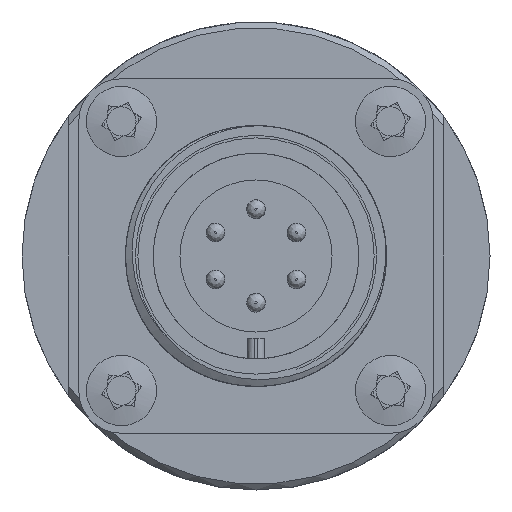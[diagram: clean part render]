
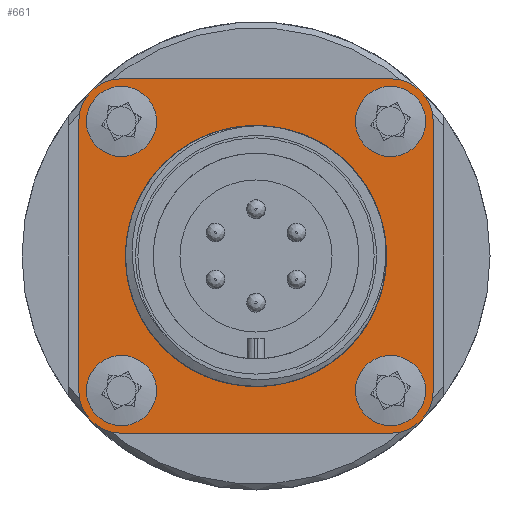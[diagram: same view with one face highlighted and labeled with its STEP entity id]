
A CAD part, front view. The second image highlights one B-rep face of the part: STEP entity #661.
In plain terms, the highlighted planar face has unit normal (0, -1, 0) as drawn and (-1, 0, 0) by its records, which use the part's own axes.
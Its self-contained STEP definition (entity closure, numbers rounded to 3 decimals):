
#661 = ADVANCED_FACE( '', ( #1317, #1318, #1319, #1320, #1321, #1322 ), #1323, .F. );
#1317 = FACE_BOUND( '', #5621, .T. );
#1318 = FACE_BOUND( '', #5622, .T. );
#1319 = FACE_OUTER_BOUND( '', #5623, .T. );
#1320 = FACE_BOUND( '', #5624, .T. );
#1321 = FACE_BOUND( '', #5625, .T. );
#1322 = FACE_BOUND( '', #5626, .T. );
#1323 = PLANE( '', #5627 );
#5621 = EDGE_LOOP( '', ( #7750 ) );
#5622 = EDGE_LOOP( '', ( #7751 ) );
#5623 = EDGE_LOOP( '', ( #7752, #7753, #7754, #7755, #7756, #7757, #7758, #7759 ) );
#5624 = EDGE_LOOP( '', ( #7760 ) );
#5625 = EDGE_LOOP( '', ( #7761 ) );
#5626 = EDGE_LOOP( '', ( #7762 ) );
#5627 = AXIS2_PLACEMENT_3D( '', #7763, #7764, #7765 );
#7750 = ORIENTED_EDGE( '', *, *, #8535, .T. );
#7751 = ORIENTED_EDGE( '', *, *, #8529, .T. );
#7752 = ORIENTED_EDGE( '', *, *, #8103, .F. );
#7753 = ORIENTED_EDGE( '', *, *, #8334, .F. );
#7754 = ORIENTED_EDGE( '', *, *, #8190, .F. );
#7755 = ORIENTED_EDGE( '', *, *, #8341, .F. );
#7756 = ORIENTED_EDGE( '', *, *, #8485, .F. );
#7757 = ORIENTED_EDGE( '', *, *, #8337, .F. );
#7758 = ORIENTED_EDGE( '', *, *, #8449, .F. );
#7759 = ORIENTED_EDGE( '', *, *, #8154, .F. );
#7760 = ORIENTED_EDGE( '', *, *, #8288, .T. );
#7761 = ORIENTED_EDGE( '', *, *, #8501, .T. );
#7762 = ORIENTED_EDGE( '', *, *, #8274, .T. );
#7763 = CARTESIAN_POINT( '', ( -2.4, -11.5, 11.5 ) );
#7764 = DIRECTION( '', ( 1., 0., 0. ) );
#7765 = DIRECTION( '', ( 0., 1., 0. ) );
#8103 = EDGE_CURVE( '', #8629, #8631, #8632, .T. );
#8154 = EDGE_CURVE( '', #8631, #8720, #8721, .T. );
#8190 = EDGE_CURVE( '', #8781, #8783, #8784, .T. );
#8274 = EDGE_CURVE( '', #8922, #8922, #8923, .T. );
#8288 = EDGE_CURVE( '', #8943, #8943, #8944, .T. );
#8334 = EDGE_CURVE( '', #8783, #8629, #9015, .T. );
#8337 = EDGE_CURVE( '', #9017, #9019, #9020, .T. );
#8341 = EDGE_CURVE( '', #9023, #8781, #9025, .T. );
#8449 = EDGE_CURVE( '', #8720, #9017, #9187, .T. );
#8485 = EDGE_CURVE( '', #9019, #9023, #9234, .T. );
#8501 = EDGE_CURVE( '', #9251, #9251, #9252, .T. );
#8529 = EDGE_CURVE( '', #9284, #9284, #9285, .T. );
#8535 = EDGE_CURVE( '', #9292, #9292, #9293, .T. );
#8629 = VERTEX_POINT( '', #9392 );
#8631 = VERTEX_POINT( '', #9395 );
#8632 = CIRCLE( '', #9396, 3.65 );
#8720 = VERTEX_POINT( '', #10011 );
#8721 = LINE( '', #10012, #10013 );
#8781 = VERTEX_POINT( '', #10126 );
#8783 = VERTEX_POINT( '', #10129 );
#8784 = CIRCLE( '', #10130, 3.65 );
#8922 = VERTEX_POINT( '', #11244 );
#8923 = CIRCLE( '', #11245, 1.5 );
#8943 = VERTEX_POINT( '', #11272 );
#8944 = CIRCLE( '', #11273, 1.5 );
#9015 = LINE( '', #11406, #11407 );
#9017 = VERTEX_POINT( '', #11409 );
#9019 = VERTEX_POINT( '', #11412 );
#9020 = LINE( '', #11413, #11414 );
#9023 = VERTEX_POINT( '', #11418 );
#9025 = LINE( '', #11421, #11422 );
#9187 = CIRCLE( '', #12160, 3.65 );
#9234 = CIRCLE( '', #12373, 3.65 );
#9251 = VERTEX_POINT( '', #12392 );
#9252 = CIRCLE( '', #12393, 1.5 );
#9284 = VERTEX_POINT( '', #12780 );
#9285 = CIRCLE( '', #12781, 1.5 );
#9292 = VERTEX_POINT( '', #12788 );
#9293 = CIRCLE( '', #12789, 11.15 );
#9392 = CARTESIAN_POINT( '', ( -2.4, -11.5, 15.15 ) );
#9395 = CARTESIAN_POINT( '', ( -2.4, -15.15, 11.5 ) );
#9396 = AXIS2_PLACEMENT_3D( '', #13250, #13251, #13252 );
#10011 = CARTESIAN_POINT( '', ( -2.4, -15.15, -11.5 ) );
#10012 = CARTESIAN_POINT( '', ( -2.4, -15.15, 11.5 ) );
#10013 = VECTOR( '', #13314, 1000. );
#10126 = CARTESIAN_POINT( '', ( -2.4, 15.15, 11.5 ) );
#10129 = CARTESIAN_POINT( '', ( -2.4, 11.5, 15.15 ) );
#10130 = AXIS2_PLACEMENT_3D( '', #13362, #13363, #13364 );
#11244 = CARTESIAN_POINT( '', ( -2.4, -10., -11.5 ) );
#11245 = AXIS2_PLACEMENT_3D( '', #13480, #13481, #13482 );
#11272 = CARTESIAN_POINT( '', ( -2.4, 13., 11.5 ) );
#11273 = AXIS2_PLACEMENT_3D( '', #13496, #13497, #13498 );
#11406 = CARTESIAN_POINT( '', ( -2.4, -11.5, 15.15 ) );
#11407 = VECTOR( '', #13548, 1000. );
#11409 = CARTESIAN_POINT( '', ( -2.4, -11.5, -15.15 ) );
#11412 = CARTESIAN_POINT( '', ( -2.4, 11.5, -15.15 ) );
#11413 = CARTESIAN_POINT( '', ( -2.4, -11.5, -15.15 ) );
#11414 = VECTOR( '', #13550, 1000. );
#11418 = CARTESIAN_POINT( '', ( -2.4, 15.15, -11.5 ) );
#11421 = CARTESIAN_POINT( '', ( -2.4, 15.15, 11.5 ) );
#11422 = VECTOR( '', #13553, 1000. );
#12160 = AXIS2_PLACEMENT_3D( '', #13689, #13690, #13691 );
#12373 = AXIS2_PLACEMENT_3D( '', #13732, #13733, #13734 );
#12392 = CARTESIAN_POINT( '', ( -2.4, 13., -11.5 ) );
#12393 = AXIS2_PLACEMENT_3D( '', #13749, #13750, #13751 );
#12780 = CARTESIAN_POINT( '', ( -2.4, -10., 11.5 ) );
#12781 = AXIS2_PLACEMENT_3D( '', #13767, #13768, #13769 );
#12788 = CARTESIAN_POINT( '', ( -2.4, 11.15, 0. ) );
#12789 = AXIS2_PLACEMENT_3D( '', #13776, #13777, #13778 );
#13250 = CARTESIAN_POINT( '', ( -2.4, -11.5, 11.5 ) );
#13251 = DIRECTION( '', ( 1., 0., 0. ) );
#13252 = DIRECTION( '', ( 0., 1., 0. ) );
#13314 = DIRECTION( '', ( 0., 0., -1. ) );
#13362 = CARTESIAN_POINT( '', ( -2.4, 11.5, 11.5 ) );
#13363 = DIRECTION( '', ( 1., 0., 0. ) );
#13364 = DIRECTION( '', ( 0., 1., 0. ) );
#13480 = CARTESIAN_POINT( '', ( -2.4, -11.5, -11.5 ) );
#13481 = DIRECTION( '', ( 1., 0., 0. ) );
#13482 = DIRECTION( '', ( 0., 1., 0. ) );
#13496 = CARTESIAN_POINT( '', ( -2.4, 11.5, 11.5 ) );
#13497 = DIRECTION( '', ( 1., 0., 0. ) );
#13498 = DIRECTION( '', ( 0., 1., 0. ) );
#13548 = DIRECTION( '', ( 0., -1., 0. ) );
#13550 = DIRECTION( '', ( 0., 1., 0. ) );
#13553 = DIRECTION( '', ( 0., 0., 1. ) );
#13689 = CARTESIAN_POINT( '', ( -2.4, -11.5, -11.5 ) );
#13690 = DIRECTION( '', ( 1., 0., 0. ) );
#13691 = DIRECTION( '', ( 0., 1., 0. ) );
#13732 = CARTESIAN_POINT( '', ( -2.4, 11.5, -11.5 ) );
#13733 = DIRECTION( '', ( 1., 0., 0. ) );
#13734 = DIRECTION( '', ( 0., -1., 0. ) );
#13749 = CARTESIAN_POINT( '', ( -2.4, 11.5, -11.5 ) );
#13750 = DIRECTION( '', ( 1., 0., 0. ) );
#13751 = DIRECTION( '', ( 0., 1., 0. ) );
#13767 = CARTESIAN_POINT( '', ( -2.4, -11.5, 11.5 ) );
#13768 = DIRECTION( '', ( 1., 0., 0. ) );
#13769 = DIRECTION( '', ( 0., 1., 0. ) );
#13776 = CARTESIAN_POINT( '', ( -2.4, 0., 0. ) );
#13777 = DIRECTION( '', ( 1., 0., 0. ) );
#13778 = DIRECTION( '', ( 0., 1., 0. ) );
